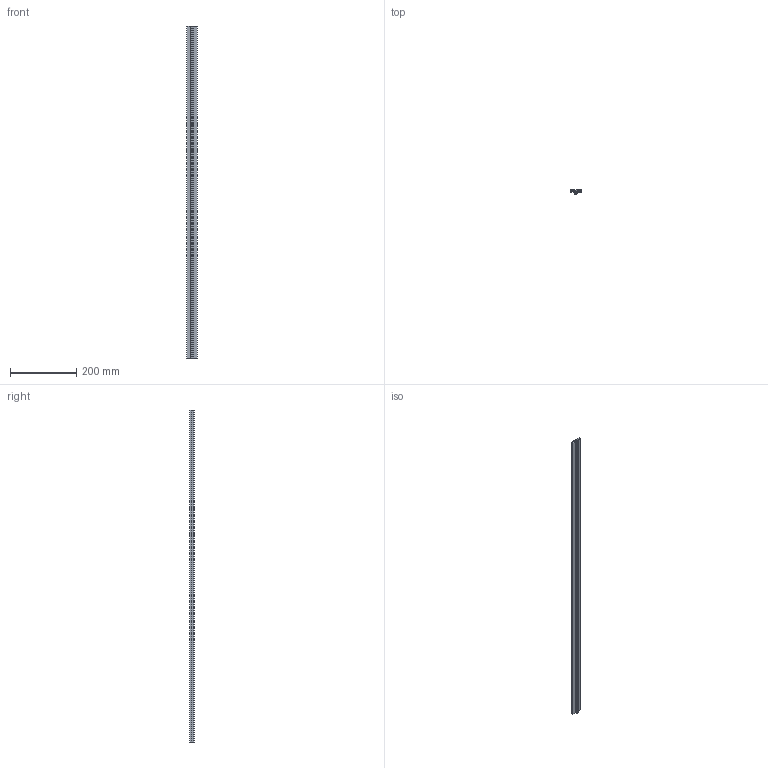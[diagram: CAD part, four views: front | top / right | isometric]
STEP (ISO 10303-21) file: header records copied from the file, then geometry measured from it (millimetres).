
FILE_DESCRIPTION(/* description */ (''),/* implementation_level */ '2;1');
FILE_NAME(/* name */ 'D:\cadd\new~產品型錄\配件\8系列\AMF-08PB.stp',/* time_stamp */ '2016-12-09T14:24:36+08:00',/* author */ ('Owner'),/* organization */ (''),/* preprocessor_version */ 'ST-DEVELOPER v15.2',/* originating_system */ 'Autodesk Inventor 2014',/* authorisation */ '');
FILE_SCHEMA (('AUTOMOTIVE_DESIGN { 1 0 10303 214 3 1 1 }'));
Length unit declared in the file: millimetre
Products named in the file (1): AMF-08PB
Bounding box: 32 x 13 x 1000 mm (x, y, z)
Volume: 127977.3 mm3; surface area: 181010.2 mm2
Topology: 1 solids, 1 shells, 44 faces, 126 edges, 84 vertices
Faces by surface type: plane 38, cylinder 6
Entity records: 1455 total; most frequent: CARTESIAN_POINT 255, ORIENTED_EDGE 252, DIRECTION 228, EDGE_CURVE 126, LINE 114, VECTOR 114, VERTEX_POINT 84, AXIS2_PLACEMENT_3D 57
